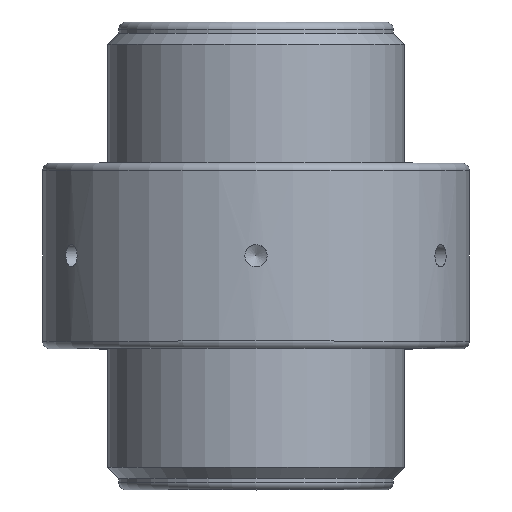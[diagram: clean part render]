
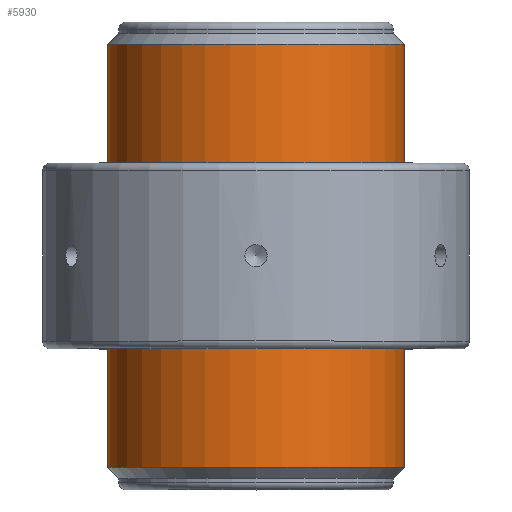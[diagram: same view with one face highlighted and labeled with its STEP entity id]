
A CAD part, top view. The second image highlights one B-rep face of the part: STEP entity #5930.
In plain terms, the highlighted cylindrical face has radius 40 mm (diameter 80 mm), a full revolution.
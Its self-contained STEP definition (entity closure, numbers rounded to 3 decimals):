
#37=CYLINDRICAL_SURFACE('',#6240,40.);
#56=CIRCLE('',#6239,40.);
#57=CIRCLE('',#6241,40.);
#88=FACE_BOUND('',#1160,.T.);
#805=FACE_OUTER_BOUND('',#1159,.T.);
#1159=EDGE_LOOP('',(#4727));
#1160=EDGE_LOOP('',(#4728));
#2674=VERTEX_POINT('',#9227);
#2675=VERTEX_POINT('',#9230);
#3414=EDGE_CURVE('',#2674,#2674,#56,.T.);
#3415=EDGE_CURVE('',#2675,#2675,#57,.T.);
#4727=ORIENTED_EDGE('',*,*,#3414,.T.);
#4728=ORIENTED_EDGE('',*,*,#3415,.F.);
#5930=ADVANCED_FACE('',(#805,#88),#37,.T.);
#6239=AXIS2_PLACEMENT_3D('',#9228,#6771,#6772);
#6240=AXIS2_PLACEMENT_3D('',#9229,#6773,#6774);
#6241=AXIS2_PLACEMENT_3D('',#9231,#6775,#6776);
#6771=DIRECTION('center_axis',(0.,-1.,0.));
#6772=DIRECTION('ref_axis',(1.,0.,0.));
#6773=DIRECTION('center_axis',(0.,-1.,0.));
#6774=DIRECTION('ref_axis',(1.,0.,0.));
#6775=DIRECTION('center_axis',(0.,-1.,0.));
#6776=DIRECTION('ref_axis',(1.,0.,0.));
#9227=CARTESIAN_POINT('',(40.,57.,0.));
#9228=CARTESIAN_POINT('Origin',(0.,57.,0.));
#9229=CARTESIAN_POINT('Origin',(0.,0.,0.));
#9230=CARTESIAN_POINT('',(40.,-57.,0.));
#9231=CARTESIAN_POINT('Origin',(0.,-57.,0.));
